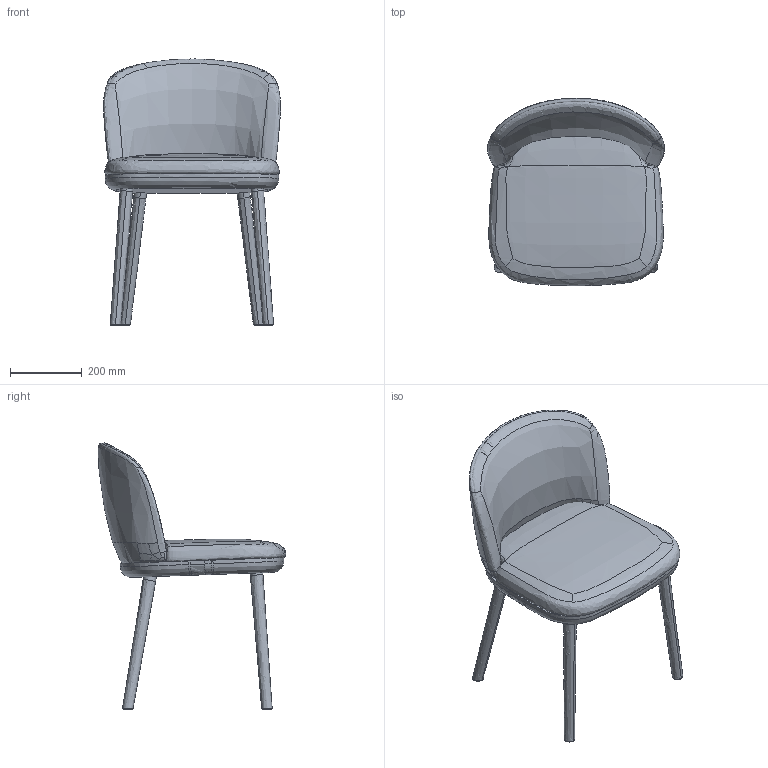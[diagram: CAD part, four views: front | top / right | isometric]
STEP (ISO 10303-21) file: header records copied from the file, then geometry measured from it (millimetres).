
FILE_DESCRIPTION(/* description */ (''),/* implementation_level */ '2;1');
FILE_NAME(/* name */ 'PAD_SEDIA-CHAIR PER SITO',/* time_stamp */ '2026-09-23T15:20:21+02:00',/* author */ (''),/* organization */ (''),/* preprocessor_version */ 'ST-DEVELOPER v19.2',/* originating_system */ 'Rhino 8.11',/* authorisation */ '');
FILE_SCHEMA (('CONFIG_CONTROL_DESIGN'));
Length unit declared in the file: millimetre
Products named in the file (1): Document
Bounding box: 493.76 x 523.3 x 742.05 mm (x, y, z)
Volume: 26950122 mm3; surface area: 1394842.9 mm2
Topology: 3 solids, 7 shells, 111 faces, 264 edges, 163 vertices
Faces by surface type: bspline 111
Entity records: 20736 total; most frequent: CARTESIAN_POINT 17152, B_SPLINE_CURVE_WITH_KNOTS 725, ORIENTED_EDGE 516, PCURVE 516, DEFINITIONAL_REPRESENTATION 516, SURFACE_CURVE 264, EDGE_CURVE 264, VERTEX_POINT 163
